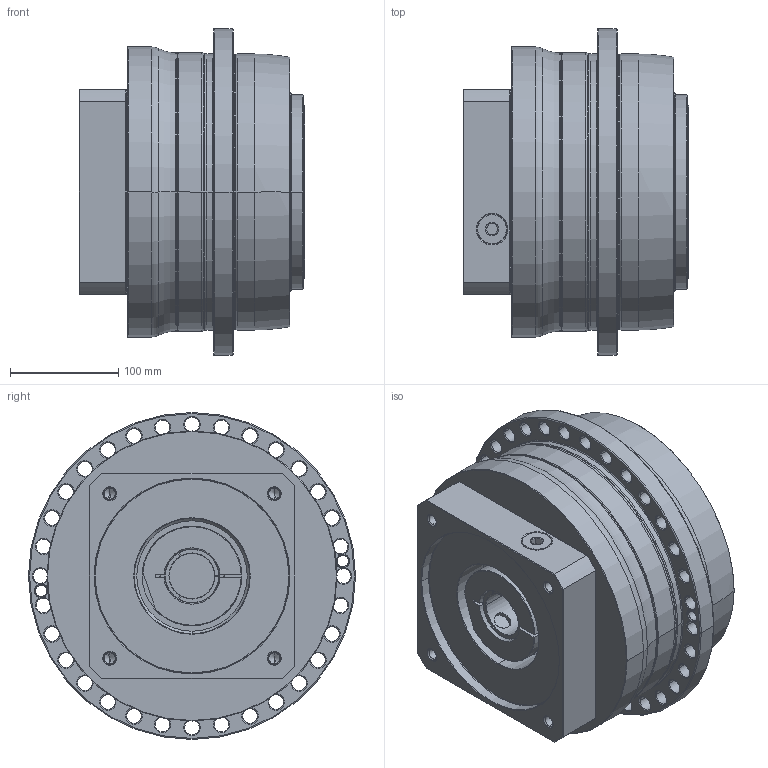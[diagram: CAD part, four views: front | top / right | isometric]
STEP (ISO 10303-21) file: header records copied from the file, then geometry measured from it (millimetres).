
FILE_DESCRIPTION((''),'2;1');
FILE_NAME('AP255_1ST_42-P0409A00201_ASM','2018-05-25T',('d01226'),(''),'PRO/ENGINEER BY PARAMETRIC TECHNOLOGY CORPORATION, 2008410','PRO/ENGINEER BY PARAMETRIC TECHNOLOGY CORPORATION, 2008410','');
FILE_SCHEMA(('CONFIG_CONTROL_DESIGN'));
Length unit declared in the file: millimetre
Products named in the file (9): P0278701003; P0359701103; P1318710201; P0503A00012; P0912702001; P1211700001; P0409A00201; 21711422019; AP255_1ST_42-P0409A00201_ASM
Assembly tree (8 placements, depth 2):
  AP255_1ST_42-P0409A00201_ASM
    P0278701003
    P0359701103
    P1318710201
    P0503A00012
    P0912702001
    P1211700001
    P0409A00201
    21711422019
Bounding box: 208 x 302 x 302 mm (x, y, z)
Volume: 8866450 mm3; surface area: 728467.3 mm2
Topology: 9 solids, 32 shells, 681 faces, 1627 edges, 989 vertices
Faces by surface type: cylinder 272, cone 226, plane 101, torus 68, bspline 14
Entity records: 24695 total; most frequent: CARTESIAN_POINT 8047, DIRECTION 3841, ORIENTED_EDGE 3140, AXIS2_PLACEMENT_3D 1639, EDGE_CURVE 1617, VERTEX_POINT 989, CIRCLE 943, EDGE_LOOP 824
